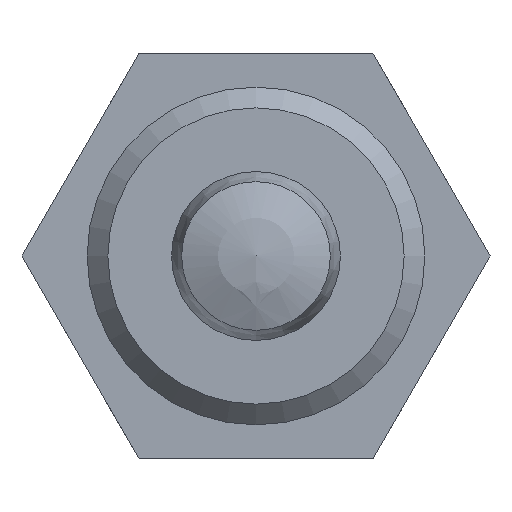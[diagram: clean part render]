
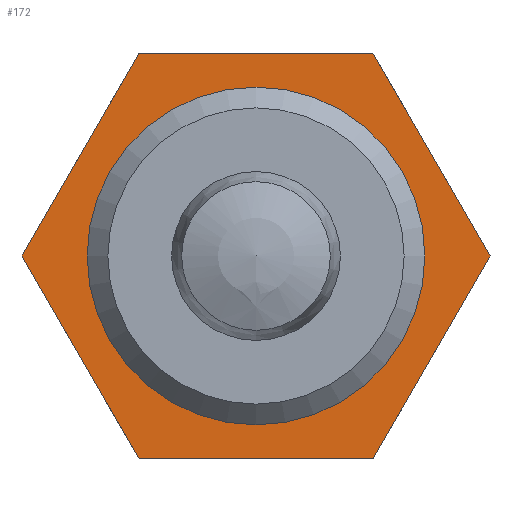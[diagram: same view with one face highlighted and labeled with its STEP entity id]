
A CAD part, front view. The second image highlights one B-rep face of the part: STEP entity #172.
In plain terms, the highlighted planar face has unit normal (0, -1, 0) as drawn and (-1, 0, 0) by its records, which use the part's own axes.
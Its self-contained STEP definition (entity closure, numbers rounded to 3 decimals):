
#172 = ADVANCED_FACE( '', ( #210, #211 ), #212, .T. );
#210 = FACE_BOUND( '', #291, .T. );
#211 = FACE_OUTER_BOUND( '', #292, .T. );
#212 = PLANE( '', #293 );
#291 = EDGE_LOOP( '', ( #381 ) );
#292 = EDGE_LOOP( '', ( #382, #383, #384, #385, #386, #387 ) );
#293 = AXIS2_PLACEMENT_3D( '', #388, #389, #390 );
#381 = ORIENTED_EDGE( '', *, *, #558, .T. );
#382 = ORIENTED_EDGE( '', *, *, #552, .F. );
#383 = ORIENTED_EDGE( '', *, *, #559, .F. );
#384 = ORIENTED_EDGE( '', *, *, #560, .T. );
#385 = ORIENTED_EDGE( '', *, *, #561, .F. );
#386 = ORIENTED_EDGE( '', *, *, #562, .F. );
#387 = ORIENTED_EDGE( '', *, *, #563, .F. );
#388 = CARTESIAN_POINT( '', ( 17., 7.2, 0. ) );
#389 = DIRECTION( '', ( -1., 0., 0. ) );
#390 = DIRECTION( '', ( 0., 0., 1. ) );
#552 = EDGE_CURVE( '', #599, #602, #603, .T. );
#558 = EDGE_CURVE( '', #613, #613, #614, .T. );
#559 = EDGE_CURVE( '', #615, #599, #616, .T. );
#560 = EDGE_CURVE( '', #615, #617, #618, .T. );
#561 = EDGE_CURVE( '', #619, #617, #620, .T. );
#562 = EDGE_CURVE( '', #621, #619, #622, .T. );
#563 = EDGE_CURVE( '', #602, #621, #623, .T. );
#599 = VERTEX_POINT( '', #681 );
#602 = VERTEX_POINT( '', #685 );
#603 = LINE( '', #686, #687 );
#613 = VERTEX_POINT( '', #708 );
#614 = CIRCLE( '', #709, 5. );
#615 = VERTEX_POINT( '', #710 );
#616 = LINE( '', #711, #712 );
#617 = VERTEX_POINT( '', #713 );
#618 = LINE( '', #714, #715 );
#619 = VERTEX_POINT( '', #716 );
#620 = LINE( '', #717, #718 );
#621 = VERTEX_POINT( '', #719 );
#622 = LINE( '', #720, #721 );
#623 = LINE( '', #722, #723 );
#681 = CARTESIAN_POINT( '', ( 17., 0., 6.928 ) );
#685 = CARTESIAN_POINT( '', ( 17., -6., 3.464 ) );
#686 = CARTESIAN_POINT( '', ( 17., 0., 6.928 ) );
#687 = VECTOR( '', #836, 1000. );
#708 = CARTESIAN_POINT( '', ( 17., 0., -5. ) );
#709 = AXIS2_PLACEMENT_3D( '', #844, #845, #846 );
#710 = CARTESIAN_POINT( '', ( 17., 6., 3.464 ) );
#711 = CARTESIAN_POINT( '', ( 17., 6., 3.464 ) );
#712 = VECTOR( '', #847, 1000. );
#713 = CARTESIAN_POINT( '', ( 17., 6., -3.464 ) );
#714 = CARTESIAN_POINT( '', ( 17., 6., 0. ) );
#715 = VECTOR( '', #848, 1000. );
#716 = CARTESIAN_POINT( '', ( 17., 0., -6.928 ) );
#717 = CARTESIAN_POINT( '', ( 17., 0., -6.928 ) );
#718 = VECTOR( '', #849, 1000. );
#719 = CARTESIAN_POINT( '', ( 17., -6., -3.464 ) );
#720 = CARTESIAN_POINT( '', ( 17., -6., -3.464 ) );
#721 = VECTOR( '', #850, 1000. );
#722 = CARTESIAN_POINT( '', ( 17., -6., 3.464 ) );
#723 = VECTOR( '', #851, 1000. );
#836 = DIRECTION( '', ( 0., -0.866, -0.5 ) );
#844 = CARTESIAN_POINT( '', ( 17., 0., 0. ) );
#845 = DIRECTION( '', ( 1., 0., 0. ) );
#846 = DIRECTION( '', ( 0., 0., -1. ) );
#847 = DIRECTION( '', ( 0., -0.866, 0.5 ) );
#848 = DIRECTION( '', ( 0., 0., -1. ) );
#849 = DIRECTION( '', ( 0., 0.866, 0.5 ) );
#850 = DIRECTION( '', ( 0., 0.866, -0.5 ) );
#851 = DIRECTION( '', ( 0., 0., -1. ) );
